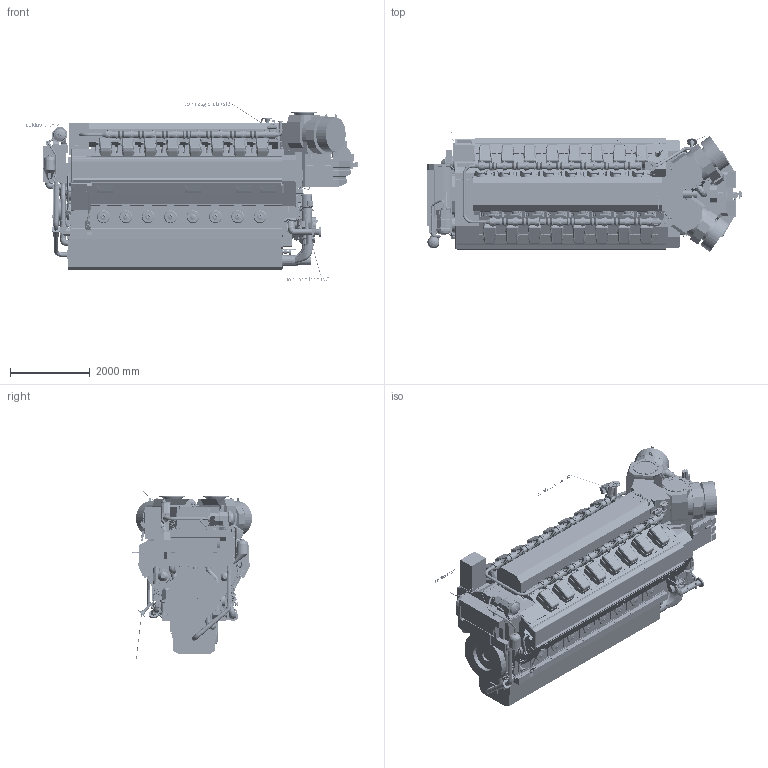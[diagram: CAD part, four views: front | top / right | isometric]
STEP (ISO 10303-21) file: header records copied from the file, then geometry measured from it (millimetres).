
FILE_DESCRIPTION(/* description */ (''),/* implementation_level */ '2;1');
FILE_NAME(/* name */ 'DAAF380186_A.stp',/* time_stamp */ '2022-01-12T11:29:48+02:00',/* author */ (''),/* organization */ (''),/* preprocessor_version */ 'ST-DEVELOPER v16.7',/* originating_system */ 'SIEMENS PLM Software NX 1915',/* authorisation */ '');
FILE_SCHEMA (('AUTOMOTIVE_DESIGN { 1 0 10303 214 3 1 1 1 }'));
Products named in the file (78): PABA336739--_Cover; PABA337764--_Body; PABA337775--_3D tags V-TCF; PABA274494--_flywheel; PABA053684--_Covers in flywheel end; PAAF077589--_CONNECTING PIECE; PAAF695508--_WASTEGATE PIPE; PAAF078061--_EQUIPMENT; PAAF063635--_ENGINE BLOCK; PAAF078536--_DIPSTICK; PAAF087147--_OIL SUCTION PIPE; PABA065852--_Gas feed pipe from roof; PABA052426--_Cylinder head covers 16V; PAAF078635--_LT-WATER SYSTEM; PAAF450547--_CHARGE AIR SYSTEM; PAAF087113--_LEAK FUEL SYSTEM; PAAF087117--_LEAK FUEL SYSTEM; PAAF066738--_INSULATION BOX; PAAF695507--_COVERS; PABA001563--_Shut-down mechanism; PAAF087138--_OIL PIPE; PAAF220774--_WATER PUMP; PAAF195815--_COVERS; PABA067993--_Double wall gas feed pipe; PAAF166694--_MOTOR; PABA002426--_Oil mist detector DN150_ Dr Horn DN125; PAAF688051--_DRAIN PIPE; PAAF688047--_AIR VENT SYSTEM; PABA041040--_Drain pipe from air reciever_ driving end; PABA201394--_Covers top shields; PABA001817--_Covers for crankcase and camshaft; PAAF078522--_FUEL PIPES; PAAF304653--_PUMP COVER; PAAF688064--_AIR VENT SYSTEM; PAAF078607--_HT-WATER PIPES; PAAF243373--_AIR DISTRIBUTING PIECE; PAAF078123--_COVER; PAAF427671--_TURBOCHARGER; PAAF078708--_ACTUATOR; PABA034962--_End cover for camshaft B-bank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
Assembly tree (113 placements, depth 3):
  PABA280064--_W16V34DFC-TCF-Engine
    PAAF074389--_END COVER
    PAAF243370--_PRELUBRICATING PUMP
    PAAF066763--_INSULATING BOX
    PAAF990034--_Lube oil connection
    PAAF074410--_LUBE OIL MODULE  x2
    PABA068023--_Gas manifold  x16
    PABA066964--_Double wall gas vent system
    PABA002081--_Main cabinet 2nd gen unic
    PAAF245056--_LUBRICATING OIL PUMP
    PAAF243367--_GOVERNOR
    PAAF074393--_PUMP COVER
    PAAF688036--_AIR VENT SYSTEM
    PAAF093449--_SEPARATOR CONNECTIONS
    PABA068010--_Gas feed pipe between banks
    PAAF087083--_LEAK FUEL SYSTEM
    PAAF221638--_WATER PUMP
    PABA173946--_Nitrogen gas pipe
    PABA068052--_Gas bellows  x14
    PABA034609--_Cylinder heads and multiducts 16V
    PAAF087123--_LEAK FUEL PIPES
    PAAF238216--_CRANKSHAFT
    PAAF689738--_CLEANING DEVICE
    PAAF078535--_COOLING WATER PIPES
    PAAF093586--_STARTING AIR SYSTEM
    PABA033164--_Fastening equipment for charge air cooler
    PAAF211478--_WASTE GATE _ BY-PASS
    PAAF074448--_WET SUMP
    PAAF295070--_INTERMEDIATE GEAR
    PAAF087078--_WATER CONNECTIONS
    PABA024559--_Covers for air bottle
    PAAF087128--_OIL PIPE
    PAAF093834--_LT-WATER SYSTEM
    PAAF078553--_HT-WATER SYSTEM
    PAAF077590--_THERMOSTATIC VALVE
    PAAF247464--_FRAME
    PAAF078077--_TURNING DEVICE
    PABA034962--_End cover for camshaft B-bank
    PAAF078708--_ACTUATOR
    PAAF427671--_TURBOCHARGER
    PAAF078123--_COVER
    PAAF243373--_AIR DISTRIBUTING PIECE
    PAAF078607--_HT-WATER PIPES
    PAAF688064--_AIR VENT SYSTEM
    PAAF304653--_PUMP COVER
    PAAF078522--_FUEL PIPES
    PABA001817--_Covers for crankcase and camshaft
    PABA201394--_Covers top shields
    PABA041040--_Drain pipe from air reciever_ driving end
    PAAF688047--_AIR VENT SYSTEM
    PAAF688051--_DRAIN PIPE
    PABA002426--_Oil mist detector DN150_ Dr Horn DN125
    PAAF166694--_MOTOR
    PABA067993--_Double wall gas feed pipe
    PAAF195815--_COVERS
    PAAF220774--_WATER PUMP
    PAAF087138--_OIL PIPE
    PABA001563--_Shut-down mechanism
    PAAF695507--_COVERS
    PAAF066738--_INSULATION BOX
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Bounding box: 8304.84 x 3000.14 x 4526.92 mm (x, y, z)
Volume: 32563445308 mm3; surface area: 375240728.2 mm2
Topology: 541 solids, 707 shells, 21032 faces, 50802 edges, 32470 vertices
Faces by surface type: plane 11248, cylinder 5171, bspline 2879, torus 907, extrusion 613, cone 199, revolution 9, sphere 6
Full cylindrical faces by diameter (mm): 0.107 x1, 3.3 x16, 6 x16, 8 x38, 8.5 x1, 8.993 x3, 9 x20, 9.685 x1, 9.69 x1, 10 x21, 11 x19, 11.908 x1, 11.995 x1, 12 x107, 12.6 x2, 13.2 x4, 13.6 x2, 14 x56, 14.596 x1, 15 x36, 15.5 x4, 15.6 x1, 15.7 x4, 16 x19, 16.376 x1, 16.658 x1, 17 x2, 17.5 x4, 17.997 x1, 18 x225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
Entity records: 688852 total; most frequent: CARTESIAN_POINT 269580, ORIENTED_EDGE 84604, DIRECTION 81301, EDGE_CURVE 42302, AXIS2_PLACEMENT_3D 28168, VERTEX_POINT 27918, VECTOR 24956, LINE 24511
